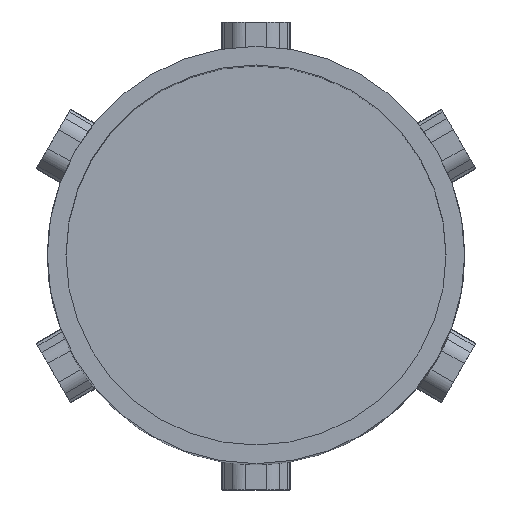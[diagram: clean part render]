
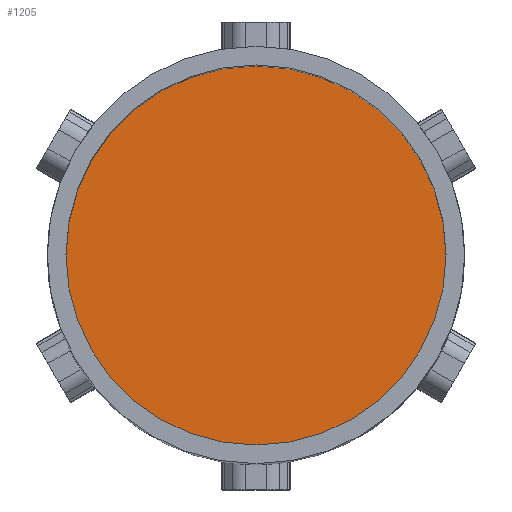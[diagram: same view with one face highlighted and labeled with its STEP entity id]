
A CAD part, top view. The second image highlights one B-rep face of the part: STEP entity #1205.
In plain terms, the highlighted planar face has unit normal (0, 0, 1).
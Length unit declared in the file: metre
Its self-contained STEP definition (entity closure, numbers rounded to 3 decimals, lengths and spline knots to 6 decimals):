
#14=PLANE('',#1317);
#369=ORIENTED_EDGE('',*,*,#718,.F.);
#370=ORIENTED_EDGE('',*,*,#649,.F.);
#649=EDGE_CURVE('',#841,#842,#968,.T.);
#718=EDGE_CURVE('',#842,#841,#986,.T.);
#841=VERTEX_POINT('',#1780);
#842=VERTEX_POINT('',#1782);
#968=CIRCLE('',#1281,0.032385);
#986=CIRCLE('',#1314,0.032385);
#1030=EDGE_LOOP('',(#369,#370));
#1098=FACE_BOUND('',#1030,.T.);
#1205=ADVANCED_FACE('',(#1098),#14,.F.);
#1281=AXIS2_PLACEMENT_3D('',#1781,#1421,#1422);
#1314=AXIS2_PLACEMENT_3D('',#2038,#1490,#1491);
#1317=AXIS2_PLACEMENT_3D('',#2071,#1514,#1515);
#1421=DIRECTION('',(0.,0.,-1.));
#1422=DIRECTION('',(-1.,0.,0.));
#1490=DIRECTION('',(0.,0.,-1.));
#1491=DIRECTION('',(-1.,0.,0.));
#1514=DIRECTION('',(0.,0.,-1.));
#1515=DIRECTION('',(1.,0.,0.));
#1780=CARTESIAN_POINT('',(0.032385,0.,-0.04445));
#1781=CARTESIAN_POINT('',(0.,0.,-0.04445));
#1782=CARTESIAN_POINT('',(-0.032385,0.,-0.04445));
#2038=CARTESIAN_POINT('',(0.,0.,-0.04445));
#2071=CARTESIAN_POINT('',(0.,0.,-0.04445));
